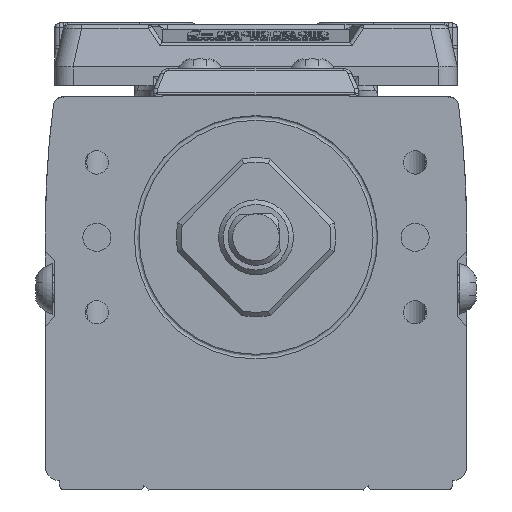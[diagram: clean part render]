
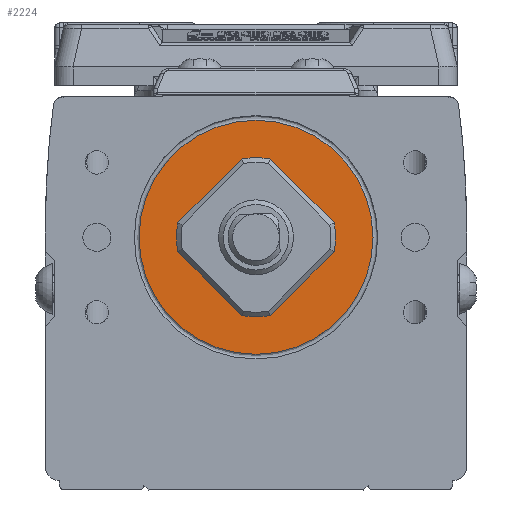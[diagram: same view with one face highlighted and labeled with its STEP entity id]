
A CAD part, left-side view. The second image highlights one B-rep face of the part: STEP entity #2224.
In plain terms, the highlighted planar face has unit normal (-1, 0, 0) as drawn and (0, 0, 1) by its records, which use the part's own axes.
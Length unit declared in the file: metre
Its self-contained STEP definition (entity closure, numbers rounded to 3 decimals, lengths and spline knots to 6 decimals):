
#2224=ADVANCED_FACE('',(#5284,#5285),#5286,.T.);
#5284=FACE_OUTER_BOUND('',#9789,.T.);
#5285=FACE_BOUND('',#9790,.T.);
#5286=PLANE('',#9791);
#9789=EDGE_LOOP('',(#17780));
#9790=EDGE_LOOP('',(#17781));
#9791=AXIS2_PLACEMENT_3D('',#17782,#17783,#17784);
#17780=ORIENTED_EDGE('',*,*,#29255,.T.);
#17781=ORIENTED_EDGE('',*,*,#29256,.F.);
#17782=CARTESIAN_POINT('',(0.000046,-0.005386,0.018));
#17783=DIRECTION('',(0.0,0.0,1.0));
#17784=DIRECTION('',(1.0,0.0,0.0));
#29255=EDGE_CURVE('',#34419,#34419,#34420,.T.);
#29256=EDGE_CURVE('',#34421,#34421,#34422,.T.);
#34419=VERTEX_POINT('',#41786);
#34420=CIRCLE('',#41787,0.0125);
#34421=VERTEX_POINT('',#41788);
#34422=CIRCLE('',#41789,0.004);
#41786=CARTESIAN_POINT('',(-0.0125,0.,0.018));
#41787=AXIS2_PLACEMENT_3D('',#51308,#51309,#51310);
#41788=CARTESIAN_POINT('',(0.004,0.0,0.018));
#41789=AXIS2_PLACEMENT_3D('',#51311,#51312,#51313);
#51308=CARTESIAN_POINT('',(0.0,0.,0.018));
#51309=DIRECTION('',(0.0,0.0,1.0));
#51310=DIRECTION('',(1.0,0.0,0.0));
#51311=CARTESIAN_POINT('',(0.0,0.0,0.018));
#51312=DIRECTION('',(0.0,0.0,1.0));
#51313=DIRECTION('',(-1.0,0.0,0.0));
